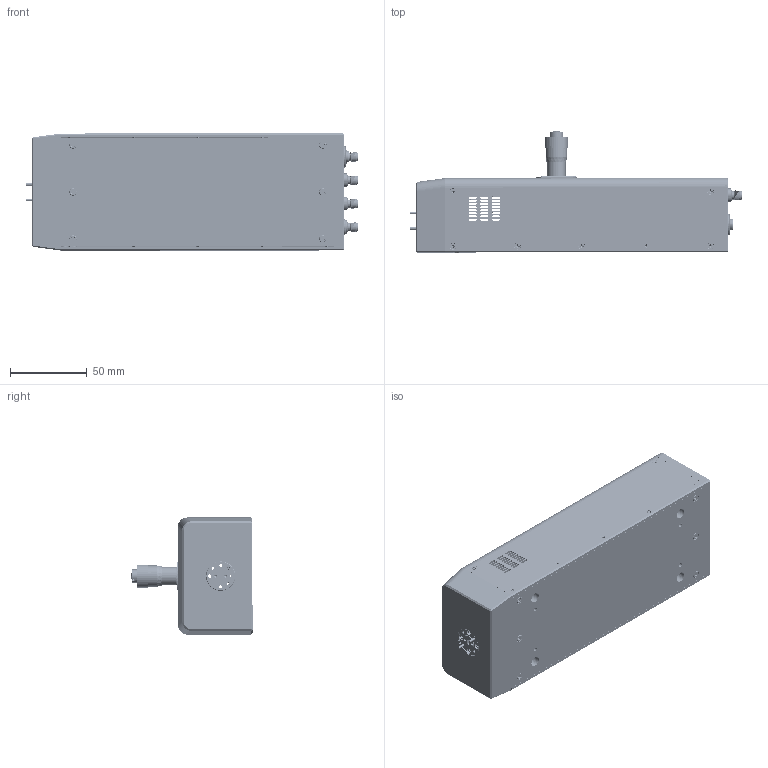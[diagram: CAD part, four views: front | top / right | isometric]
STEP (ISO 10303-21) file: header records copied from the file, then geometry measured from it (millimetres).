
FILE_DESCRIPTION (( 'STEP AP214' ), '1' );
FILE_NAME ('TO-SV-A-M-2 Mountable.STEP', '2025-07-09T20:58:25', ( '' ), ( '' ), 'SwSTEP 2.0', 'SolidWorks 2021', '' );
FILE_SCHEMA (( 'AUTOMOTIVE_DESIGN' ));
Length unit declared in the file: inch
Products named in the file (1): TO-SV-A-M-2 Mountable
Bounding box: 216.15 x 78.82 x 76.35 mm (x, y, z)
Volume: 207106.4 mm3; surface area: 140828.9 mm2
Topology: 90 solids, 90 shells, 4943 faces, 13313 edges, 8564 vertices
Faces by surface type: cylinder 2633, plane 1204, cone 661, bspline 437, torus 8
Entity records: 345037 total; most frequent: CARTESIAN_POINT 170866, ORIENTED_EDGE 26386, DIRECTION 18987, EDGE_CURVE 13193, VERTEX_POINT 8564, AXIS2_PLACEMENT_3D 7007, EDGE_LOOP 5403, LENGTH_MEASURE_WITH_UNIT 4990
